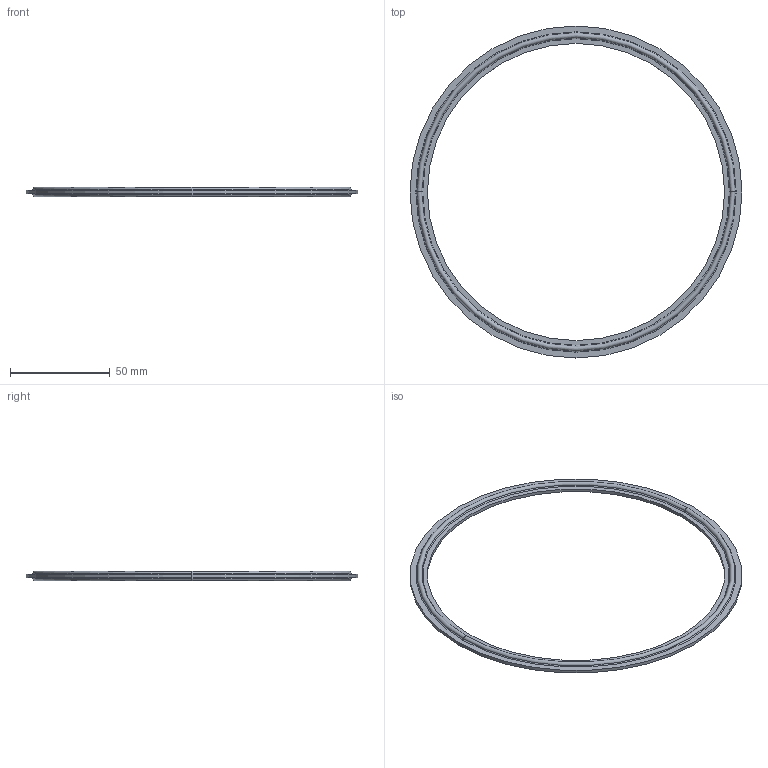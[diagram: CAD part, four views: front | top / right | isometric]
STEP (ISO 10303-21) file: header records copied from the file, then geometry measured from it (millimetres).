
FILE_DESCRIPTION (( 'STEP AP214' ), '1' );
FILE_NAME ('EG40 6.0 GASKET.STEP', '2025-04-02T15:33:21', ( '' ), ( '' ), 'SwSTEP 2.0', 'SolidWorks 2021', '' );
FILE_SCHEMA (( 'AUTOMOTIVE_DESIGN' ));
Length unit declared in the file: inch
Products named in the file (1): EG40 6.0 GASKET
Bounding box: 166.17 x 166.17 x 4.79 mm (x, y, z)
Volume: 10120.7 mm3; surface area: 11922.1 mm2
Topology: 1 solids, 1 shells, 20 faces, 40 edges, 24 vertices
Faces by surface type: torus 12, cylinder 4, plane 4
Entity records: 580 total; most frequent: DIRECTION 118, CARTESIAN_POINT 85, ORIENTED_EDGE 80, AXIS2_PLACEMENT_3D 57, EDGE_CURVE 40, CIRCLE 36, EDGE_LOOP 24, VERTEX_POINT 24
